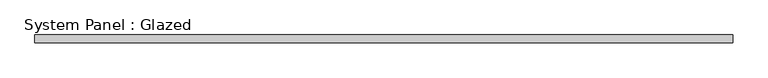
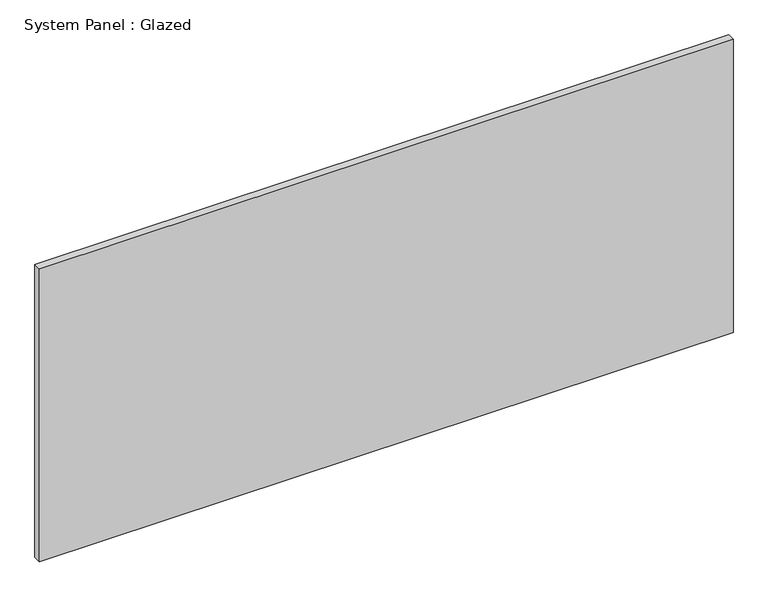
"""IFC4 building model written with IfcOpenShell, lengths in millimetres: plate geometry, System Panel : Glazed."""

from ifc_helpers import new_model, si_unit, origin, origin_with_axes, place, context, project, spatial, polyline, outline, extrude, source, transform, mapped, element, save


def system_panel_glazed_ccf48815(model_context):
    return source(origin(), model_context, "Body", "SweptSolid", [
        extrude(outline(polyline([(1122.380364, 19.05), (-1122.380364, 19.05), (-1122.380364, 44.45), (1122.380364, 44.45), (1122.380364, 19.05)])), origin_with_axes(), (0.0, 0.0, 1.0), 1003.3),
    ])


if __name__ == "__main__":
    model = new_model("IFC4")
    model_context = context("Model", 3, world=origin())
    ifc_project = project(units=[si_unit("LENGTHUNIT", "METRE", prefix="MILLI")], contexts=[model_context])
    site = spatial("IfcSite", under=ifc_project)
    building = spatial("IfcBuilding", under=site)
    placement = place(None, origin())
    system_panel_glazed_shape = system_panel_glazed_ccf48815(model_context)
    element("IfcPlate", 1, ObjectType="System Panel : Glazed", at=placement, inside=building, context=model_context, shape_type="MappedRepresentation", body=[
        mapped(system_panel_glazed_shape, transform((0.0, 0.0, 0.0), x_axis=(1.0, 0.0, 0.0), y_axis=(0.0, 1.0, 0.0), z_axis=(0.0, 0.0, 1.0))),
    ])
    save(model, "model.ifc")
